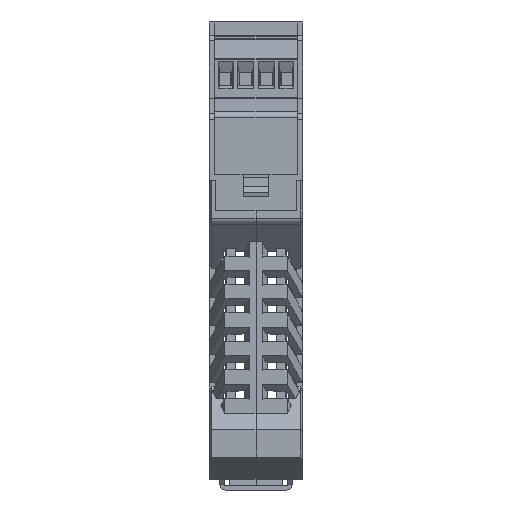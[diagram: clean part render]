
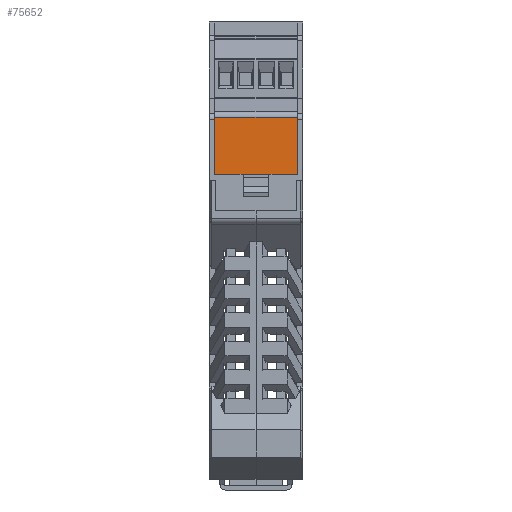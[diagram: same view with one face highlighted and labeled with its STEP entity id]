
A CAD part, front view. The second image highlights one B-rep face of the part: STEP entity #75652.
In plain terms, the highlighted planar face has unit normal (0, -1, 0.001) as drawn and (-1, 0, 0) by its records, which use the part's own axes.
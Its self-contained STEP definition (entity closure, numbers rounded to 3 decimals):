
#75652=ADVANCED_FACE('',(#141231),#141233,.T.);
#141231=FACE_BOUND('',#141232,.T.);
#141232=EDGE_LOOP('',(#194696,#194697,#194698,#194699));
#141233=PLANE('',#141234);
#141234=AXIS2_PLACEMENT_3D('',#141235,#141236,#141237);
#141235=CARTESIAN_POINT('',(-38.8,110.338,32.65));
#141236=DIRECTION('',(-1.,0.,0.));
#141237=DIRECTION('',(0.,-1.,0.));
#194696=ORIENTED_EDGE('',*,*,#222913,.F.);
#194697=ORIENTED_EDGE('',*,*,#222914,.T.);
#194698=ORIENTED_EDGE('',*,*,#222880,.F.);
#194699=ORIENTED_EDGE('',*,*,#222915,.F.);
#222880=EDGE_CURVE('',#264218,#264220,#264221,.T.);
#222913=EDGE_CURVE('',#264279,#264280,#264281,.T.);
#222914=EDGE_CURVE('',#264279,#264220,#264282,.T.);
#222915=EDGE_CURVE('',#264280,#264218,#264283,.T.);
#264218=VERTEX_POINT('',#360904);
#264220=VERTEX_POINT('',#360908);
#264221=LINE('',#360909,#360910);
#264279=VERTEX_POINT('',#361033);
#264280=VERTEX_POINT('',#361034);
#264281=LINE('',#361035,#361036);
#264282=LINE('',#361038,#361039);
#264283=LINE('',#361041,#361042);
#360904=CARTESIAN_POINT('',(-38.8,96.407,32.6));
#360908=CARTESIAN_POINT('',(-38.8,96.407,12.6));
#360909=CARTESIAN_POINT('',(-38.8,96.407,32.6));
#360910=VECTOR('',#360911,1.);
#360911=DIRECTION('',(0.,0.,-1.));
#361033=CARTESIAN_POINT('',(-38.8,110.249,12.6));
#361034=CARTESIAN_POINT('',(-38.8,110.249,32.6));
#361035=CARTESIAN_POINT('',(-38.8,110.249,12.6));
#361036=VECTOR('',#361037,1.);
#361037=DIRECTION('',(0.,0.,1.));
#361038=CARTESIAN_POINT('',(-38.8,110.249,12.6));
#361039=VECTOR('',#361040,1.);
#361040=DIRECTION('',(0.,-1.,0.));
#361041=CARTESIAN_POINT('',(-38.8,110.249,32.6));
#361042=VECTOR('',#361043,1.);
#361043=DIRECTION('',(0.,-1.,0.));
